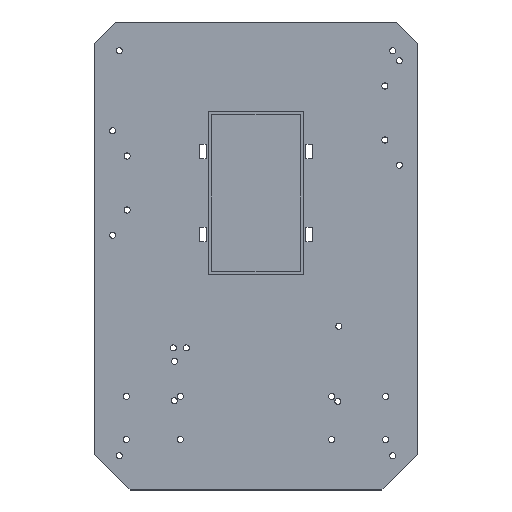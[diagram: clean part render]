
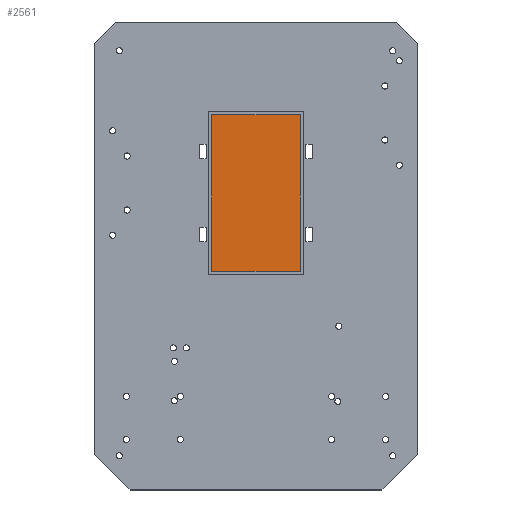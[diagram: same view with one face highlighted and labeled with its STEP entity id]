
A CAD part, top view. The second image highlights one B-rep face of the part: STEP entity #2561.
In plain terms, the highlighted planar face has unit normal (0, 0, 1).
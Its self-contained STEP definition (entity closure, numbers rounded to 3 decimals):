
#156 = VERTEX_POINT('',#157);
#157 = CARTESIAN_POINT('',(24.5,78.5,61.781));
#163 = EDGE_CURVE('',#156,#164,#166,.T.);
#164 = VERTEX_POINT('',#165);
#165 = CARTESIAN_POINT('',(24.5,-8.5,61.781));
#166 = LINE('',#167,#168);
#167 = CARTESIAN_POINT('',(24.5,78.5,61.781));
#168 = VECTOR('',#169,1.);
#169 = DIRECTION('',(0.,-1.,0.));
#194 = VERTEX_POINT('',#195);
#195 = CARTESIAN_POINT('',(-24.5,78.5,61.781));
#201 = EDGE_CURVE('',#194,#156,#202,.T.);
#202 = LINE('',#203,#204);
#203 = CARTESIAN_POINT('',(-24.5,78.5,61.781));
#204 = VECTOR('',#205,1.);
#205 = DIRECTION('',(1.,0.,0.));
#225 = VERTEX_POINT('',#226);
#226 = CARTESIAN_POINT('',(-24.5,-8.5,61.781));
#232 = EDGE_CURVE('',#225,#194,#233,.T.);
#233 = LINE('',#234,#235);
#234 = CARTESIAN_POINT('',(-24.5,-8.5,61.781));
#235 = VECTOR('',#236,1.);
#236 = DIRECTION('',(0.,1.,0.));
#254 = EDGE_CURVE('',#164,#225,#255,.T.);
#255 = LINE('',#256,#257);
#256 = CARTESIAN_POINT('',(24.5,-8.5,61.781));
#257 = VECTOR('',#258,1.);
#258 = DIRECTION('',(-1.,0.,0.));
#2561 = ADVANCED_FACE('',(#2562),#2568,.T.);
#2562 = FACE_BOUND('',#2563,.T.);
#2563 = EDGE_LOOP('',(#2564,#2565,#2566,#2567));
#2564 = ORIENTED_EDGE('',*,*,#201,.F.);
#2565 = ORIENTED_EDGE('',*,*,#232,.F.);
#2566 = ORIENTED_EDGE('',*,*,#254,.F.);
#2567 = ORIENTED_EDGE('',*,*,#163,.F.);
#2568 = PLANE('',#2569);
#2569 = AXIS2_PLACEMENT_3D('',#2570,#2571,#2572);
#2570 = CARTESIAN_POINT('',(24.5,78.5,61.781));
#2571 = DIRECTION('',(0.,0.,1.));
#2572 = DIRECTION('',(-1.,0.,0.));
